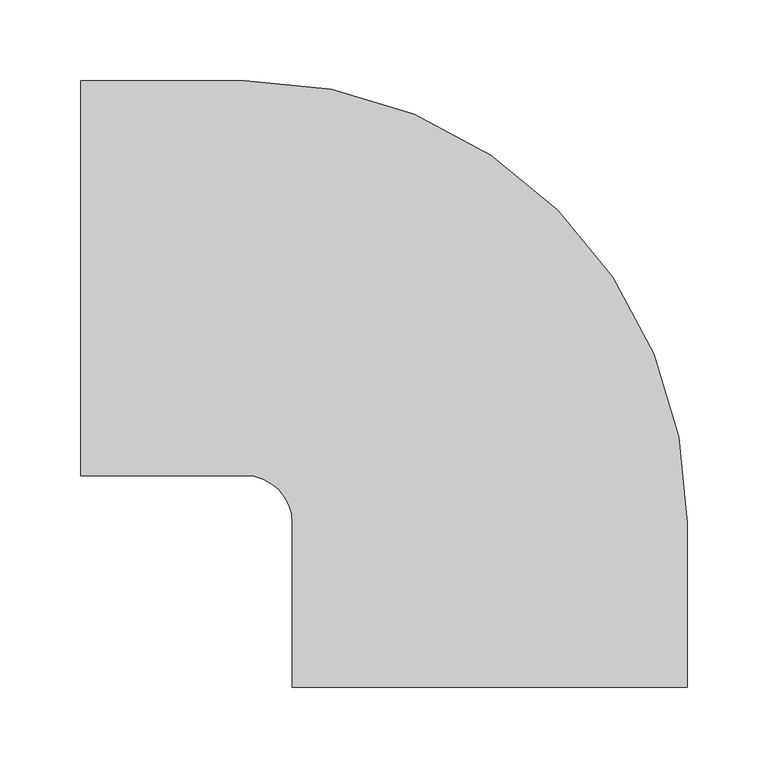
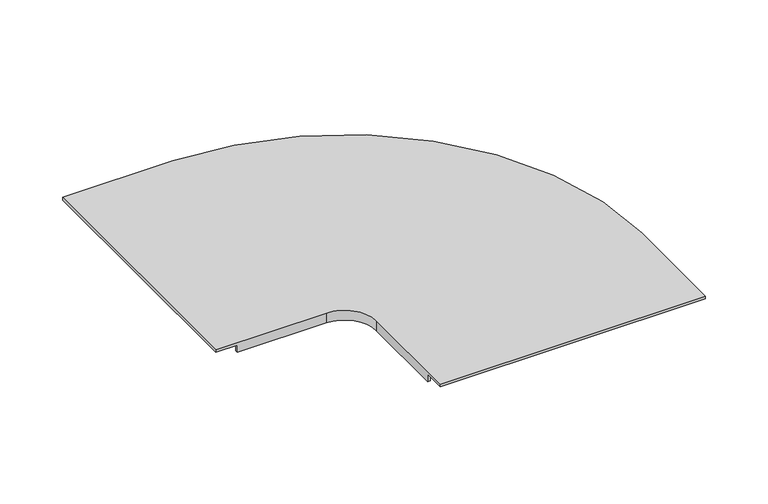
"""IFC4 building model written with IfcOpenShell, lengths in millimetres: cable carrier fitting geometry, CCT_Hyperline_FBTR-ELB90-CVR_Крышка на горизонтальный изгиб на 90°пластиковый : Крышка на горизонтальный изгиб на 90° пластиковый."""

from ifc_helpers import new_model, si_unit, frame, origin, place, context, project, spatial, polyline, circle_curve, source, transform, mapped, element, save
from ifc_brep_helpers import plane_surface, cylinder_surface, revolved_surface, advanced_brep


def cable_carrier_fitting_982ae81b(model_context):
    return source(origin(), model_context, "Body", "AdvancedBrep", [
        advanced_brep(
        [(-163.7249258, 40.0558071, 52.54), (-163.7249258, 285.1358071, 52.54), (-163.7249258, 285.1358071, 50.0), (-163.7249258, 40.0558071, 50.0), (-61.7249258, 40.0558071, 52.54), (-32.2649258, 10.5958071, 52.54), (-32.2649258, -91.4041929, 52.54), (212.8150742, -91.4041929, 52.54), (212.8150742, 10.5958071, 52.54), (-61.7249258, 285.1358071, 52.54), (-61.7249258, 282.5958071, 50.0), (210.2750742, 10.5958071, 50.0), (210.2750742, -71.4041929, 50.0), (212.8150742, -71.4041929, 50.0), (212.8150742, -91.4041929, 50.0), (-32.2649258, -91.4041929, 50.0), (-32.2649258, -71.4041929, 50.0), (-29.7249258, -71.4041929, 50.0), (-29.7249258, 10.5958071, 50.0), (-61.7249258, 42.5958071, 50.0), (-143.7249258, 42.5958071, 50.0), (-143.7249258, 40.0558071, 50.0), (-143.7249258, 285.1358071, 50.0), (-143.7249258, 282.5958071, 50.0), (-61.7249258, 42.5958071, 43.0), (-143.7249258, 42.5958071, 43.0), (-29.7249258, 10.5958071, 43.0), (-29.7249258, -71.4041929, 43.0), (-32.2649258, -71.4041929, 43.0), (-32.2649258, 10.5958071, 43.0), (-61.7249258, 40.0558071, 43.0), (-143.7249258, 40.0558071, 43.0), (-61.7249258, 285.1358071, 43.0), (-143.7249258, 285.1358071, 43.0), (212.8150742, 10.5958071, 43.0), (212.8150742, -71.4041929, 43.0), (210.2750742, -71.4041929, 43.0), (210.2750742, 10.5958071, 43.0), (-61.7249258, 282.5958071, 43.0), (-143.7249258, 282.5958071, 43.0)],
        [
            (0, 1),
            (1, 2),
            (2, 3),
            (3, 0),
            (0, 4),
            (4, 5, circle_curve(frame((-61.7249258, 10.5958071, 52.54), z_axis=(0.0, 0.0, -1.0), x_axis=(0.0, 1.0, 0.0)), 29.46)),
            (5, 6),
            (6, 7),
            (7, 8),
            (8, 9, circle_curve(frame((-61.7249258, 10.5958071, 52.54), z_axis=(0.0, 0.0, 1.0), x_axis=(0.0, 1.0, 0.0)), 274.54)),
            (9, 1),
            (10, 11, circle_curve(frame((-61.7249258, 10.5958071, 50.0), z_axis=(0.0, 0.0, -1.0), x_axis=(0.0, 1.0, 0.0)), 272.0)),
            (11, 12),
            (12, 13),
            (13, 14),
            (14, 15),
            (15, 16),
            (16, 17),
            (17, 18),
            (18, 19, circle_curve(frame((-61.7249258, 10.5958071, 50.0), z_axis=(0.0, 0.0, 1.0), x_axis=(0.0, 1.0, 0.0)), 32.0)),
            (19, 20),
            (20, 21),
            (21, 3),
            (2, 22),
            (22, 23),
            (23, 10),
            (19, 24),
            (24, 25),
            (25, 20),
            (24, 26, circle_curve(frame((-61.7249258, 10.5958071, 43.0), z_axis=(0.0, 0.0, -1.0), x_axis=(0.0, 1.0, 0.0)), 32.0)),
            (26, 27),
            (27, 28),
            (28, 29),
            (29, 30, circle_curve(frame((-61.7249258, 10.5958071, 43.0), z_axis=(0.0, 0.0, 1.0), x_axis=(0.0, 1.0, 0.0)), 29.46)),
            (30, 31),
            (31, 25),
            (21, 31),
            (30, 4),
            (18, 26),
            (29, 5),
            (6, 15),
            (14, 7),
            (17, 27),
            (28, 16),
            (9, 32),
            (32, 33),
            (33, 22),
            (32, 34, circle_curve(frame((-61.7249258, 10.5958071, 43.0), z_axis=(0.0, 0.0, -1.0), x_axis=(0.0, 1.0, 0.0)), 274.54)),
            (34, 35),
            (35, 36),
            (36, 37),
            (37, 38, circle_curve(frame((-61.7249258, 10.5958071, 43.0), z_axis=(0.0, 0.0, 1.0), x_axis=(0.0, 1.0, 0.0)), 272.0)),
            (38, 39),
            (39, 33),
            (38, 10),
            (23, 39),
            (8, 34),
            (37, 11),
            (13, 35),
            (36, 12),
        ],
        [
            plane_surface(frame((-163.7249258, 42.5958071, 25.0), z_axis=(-1.0, 0.0, 0.0), x_axis=(0.0, 0.0, 1.0))),
            plane_surface(frame((-163.7249258, 40.0558071, 52.54), z_axis=(0.0, 0.0, 1.0), x_axis=(1.0, 0.0, 0.0))),
            plane_surface(frame((-163.7249258, 282.5958071, 50.0), z_axis=(0.0, 0.0, -1.0), x_axis=(1.0, 0.0, 0.0))),
            plane_surface(frame((-163.7249258, 42.5958071, 50.0), z_axis=(0.0, 1.0, 0.0), x_axis=(1.0, 0.0, 0.0))),
            plane_surface(frame((-163.7249258, 42.5958071, 43.0), z_axis=(0.0, 0.0, -1.0), x_axis=(1.0, 0.0, 0.0))),
            plane_surface(frame((-163.7249258, 40.0558071, 43.0), z_axis=(0.0, -1.0, 0.0), x_axis=(1.0, 0.0, 0.0))),
            cylinder_surface(frame((-61.7249258, 10.5958071, 25.0), z_axis=(0.0, 0.0, -1.0), x_axis=(0.0, 1.0, 0.0)), 32.0),
            revolved_surface(polyline([(-61.7249258, 40.0558071, 43.0), (-61.7249258, 40.0558071, 52.54)]), (-61.7249258, 10.5958071, 25.0), (0.0, 0.0, -1.0)),
            plane_surface(frame((-29.7249258, -91.4041929, 25.0), z_axis=(0.0, -1.0, 0.0), x_axis=(0.0, 0.0, 1.0))),
            plane_surface(frame((-29.7249258, 10.5958071, 50.0), z_axis=(1.0, 0.0, 0.0), x_axis=(0.0, -1.0, 0.0))),
            plane_surface(frame((-32.2649258, 10.5958071, 43.0), z_axis=(-1.0, 0.0, 0.0), x_axis=(0.0, -1.0, 0.0))),
            plane_surface(frame((-163.7249258, 285.1358071, 52.54), z_axis=(0.0, 1.0, 0.0), x_axis=(1.0, 0.0, 0.0))),
            plane_surface(frame((-163.7249258, 285.1358071, 43.0), z_axis=(0.0, 0.0, -1.0), x_axis=(1.0, 0.0, 0.0))),
            plane_surface(frame((-163.7249258, 282.5958071, 43.0), z_axis=(0.0, -1.0, 0.0), x_axis=(1.0, 0.0, 0.0))),
            cylinder_surface(frame((-61.7249258, 10.5958071, 25.0), z_axis=(0.0, 0.0, -1.0), x_axis=(0.0, 1.0, 0.0)), 274.54),
            revolved_surface(polyline([(-61.7249258, 282.5958071, 43.0), (-61.7249258, 282.5958071, 50.0)]), (-61.7249258, 10.5958071, 25.0), (0.0, 0.0, -1.0)),
            plane_surface(frame((212.8150742, 10.5958071, 52.54), z_axis=(1.0, 0.0, 0.0), x_axis=(0.0, -1.0, 0.0))),
            plane_surface(frame((210.2750742, 10.5958071, 43.0), z_axis=(-1.0, 0.0, 0.0), x_axis=(0.0, -1.0, 0.0))),
            plane_surface(frame((-143.7249258, -225.5092401, 43.0), z_axis=(-1.0, 0.0, 0.0), x_axis=(0.0, 1.0, 0.0))),
            plane_surface(frame((-218.796213, -71.4041929, 50.0), z_axis=(0.0, -1.0, 0.0), x_axis=(1.0, 0.0, 0.0))),
        ],
        [
            (0, [[1, 2, 3, 4]]),
            (1, [[-1, 5, 6, 7, 8, 9, 10, 11]]),
            (2, [[12, 13, 14, 15, 16, 17, 18, 19, 20, 21, 22, 23, -3, 24, 25, 26]]),
            (3, [[27, 28, 29, -21]]),
            (4, [[30, 31, 32, 33, 34, 35, 36, -28]]),
            (5, [[-5, -4, -23, 37, -35, 38]]),
            (6, [[-20, 39, -30, -27]]),
            (7, [[-6, -38, -34, 40]]),
            (8, [[-8, 41, -16, 42]]),
            (9, [[-39, -19, 43, -31]]),
            (10, [[-7, -40, -33, 44, -17, -41]]),
            (11, [[-11, 45, 46, 47, -24, -2]]),
            (12, [[48, 49, 50, 51, 52, 53, 54, -46]]),
            (13, [[55, -26, 56, -53]]),
            (14, [[-10, 57, -48, -45]]),
            (15, [[-12, -55, -52, 58]]),
            (16, [[-9, -42, -15, 59, -49, -57]]),
            (17, [[-58, -51, 60, -13]]),
            (18, [[-22, -29, -36, -37]]),
            (18, [[-25, -47, -54, -56]]),
            (19, [[-14, -60, -50, -59]]),
            (19, [[-18, -44, -32, -43]]),
        ],
    ),
    ])


if __name__ == "__main__":
    model = new_model("IFC4")
    model_context = context("Model", 3, world=origin())
    ifc_project = project(units=[si_unit("LENGTHUNIT", "METRE", prefix="MILLI")], contexts=[model_context])
    site = spatial("IfcSite", under=ifc_project)
    building = spatial("IfcBuilding", under=site)
    placement = place(None, origin())
    cable_carrier_fitting_shape = cable_carrier_fitting_982ae81b(model_context)
    element("IfcCableCarrierFitting", 1, ObjectType="CCT_Hyperline_FBTR-ELB90-CVR_Крышка на горизонтальный изгиб на 90°пластиковый : Крышка на горизонтальный изгиб на 90° пластиковый", at=placement, inside=building, context=model_context, shape_type="MappedRepresentation", body=[
        mapped(cable_carrier_fitting_shape, transform((0.0, 0.0, 0.0), x_axis=(1.0, 0.0, 0.0), y_axis=(0.0, 1.0, 0.0), z_axis=(0.0, 0.0, 1.0))),
    ])
    save(model, "model.ifc")
